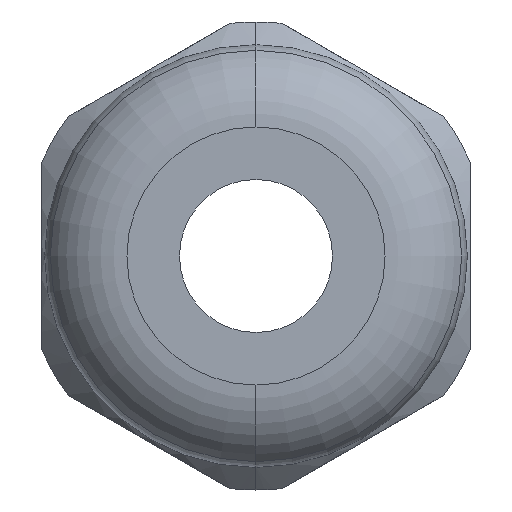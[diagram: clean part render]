
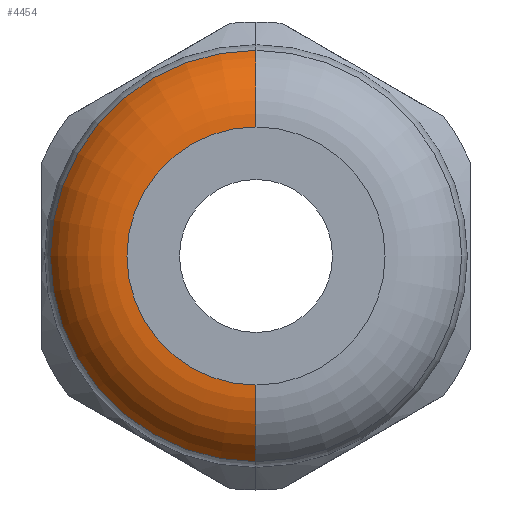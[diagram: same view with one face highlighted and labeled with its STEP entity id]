
A CAD part, left-side view. The second image highlights one B-rep face of the part: STEP entity #4454.
In plain terms, the highlighted toroidal (fillet/blend) face has major radius 6.62 mm and minor radius 4.438 mm.
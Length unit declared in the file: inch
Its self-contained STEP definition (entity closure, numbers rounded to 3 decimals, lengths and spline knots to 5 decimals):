
#146 = CARTESIAN_POINT ( 'NONE',  ( 0.09339, 0., -0.41526 ) ) ;
#147 = CARTESIAN_POINT ( 'NONE',  ( 0.09339, 0., 0.41526 ) ) ;
#148 = DIRECTION ( 'NONE',  ( 0., 0., -1. ) ) ;
#149 = DIRECTION ( 'NONE',  ( -1., 0., 0. ) ) ;
#150 = CARTESIAN_POINT ( 'NONE',  ( 0.09339, 0., 0. ) ) ;
#151 = AXIS2_PLACEMENT_3D ( 'NONE', #150, #149, #148 ) ;
#152 = CIRCLE ( 'NONE', #151, 0.41526 ) ;
#2738 = FACE_OUTER_BOUND ( 'NONE', #4523, .T. ) ;
#2744 = CARTESIAN_POINT ( 'NONE',  ( 0., 0., -0.26063 ) ) ;
#2763 = CARTESIAN_POINT ( 'NONE',  ( 0., 0., 0.26063 ) ) ;
#2764 = DIRECTION ( 'NONE',  ( 0., 0., 1. ) ) ;
#2765 = DIRECTION ( 'NONE',  ( -1., 0., 0. ) ) ;
#2766 = AXIS2_PLACEMENT_3D ( 'NONE', #2768, #2765, #2764 ) ;
#2767 = TOROIDAL_SURFACE ( 'NONE', #2766, 0.26063, 0.1747 ) ;
#2768 = CARTESIAN_POINT ( 'NONE',  ( 0.1747, 0., 0. ) ) ;
#3054 = DIRECTION ( 'NONE',  ( 0., 0., 1. ) ) ;
#3055 = DIRECTION ( 'NONE',  ( 0., 1., 0. ) ) ;
#3056 = CARTESIAN_POINT ( 'NONE',  ( 0.1747, 0., -0.26063 ) ) ;
#3057 = AXIS2_PLACEMENT_3D ( 'NONE', #3056, #3055, #3054 ) ;
#3058 = CIRCLE ( 'NONE', #3057, 0.1747 ) ;
#3059 = DIRECTION ( 'NONE',  ( 0., 0., -1. ) ) ;
#3060 = DIRECTION ( 'NONE',  ( 0., -1., 0. ) ) ;
#3061 = CARTESIAN_POINT ( 'NONE',  ( 0.1747, 0., 0.26063 ) ) ;
#3062 = AXIS2_PLACEMENT_3D ( 'NONE', #3061, #3060, #3059 ) ;
#3063 = CIRCLE ( 'NONE', #3062, 0.1747 ) ;
#3064 = DIRECTION ( 'NONE',  ( 0., 0., 1. ) ) ;
#3065 = DIRECTION ( 'NONE',  ( -1., 0., 0. ) ) ;
#3066 = CARTESIAN_POINT ( 'NONE',  ( 0., 0., 0. ) ) ;
#3067 = AXIS2_PLACEMENT_3D ( 'NONE', #3066, #3065, #3064 ) ;
#3068 = CIRCLE ( 'NONE', #3067, 0.26063 ) ;
#4085 = EDGE_CURVE ( 'NONE', #4086, #4087, #152, .T. ) ;
#4086 = VERTEX_POINT ( 'NONE', #147 ) ;
#4087 = VERTEX_POINT ( 'NONE', #146 ) ;
#4447 = ORIENTED_EDGE ( 'NONE', *, *, #4085, .T. ) ;
#4448 = ORIENTED_EDGE ( 'NONE', *, *, #4522, .T. ) ;
#4449 = VERTEX_POINT ( 'NONE', #2744 ) ;
#4451 = ORIENTED_EDGE ( 'NONE', *, *, #4517, .F. ) ;
#4452 = ORIENTED_EDGE ( 'NONE', *, *, #4519, .F. ) ;
#4454 = ADVANCED_FACE ( 'NONE', ( #2738 ), #2767, .T. ) ;
#4455 = VERTEX_POINT ( 'NONE', #2763 ) ;
#4517 = EDGE_CURVE ( 'NONE', #4455, #4449, #3068, .T. ) ;
#4519 = EDGE_CURVE ( 'NONE', #4086, #4455, #3063, .T. ) ;
#4522 = EDGE_CURVE ( 'NONE', #4087, #4449, #3058, .T. ) ;
#4523 = EDGE_LOOP ( 'NONE', ( #4447, #4448, #4451, #4452 ) ) ;
